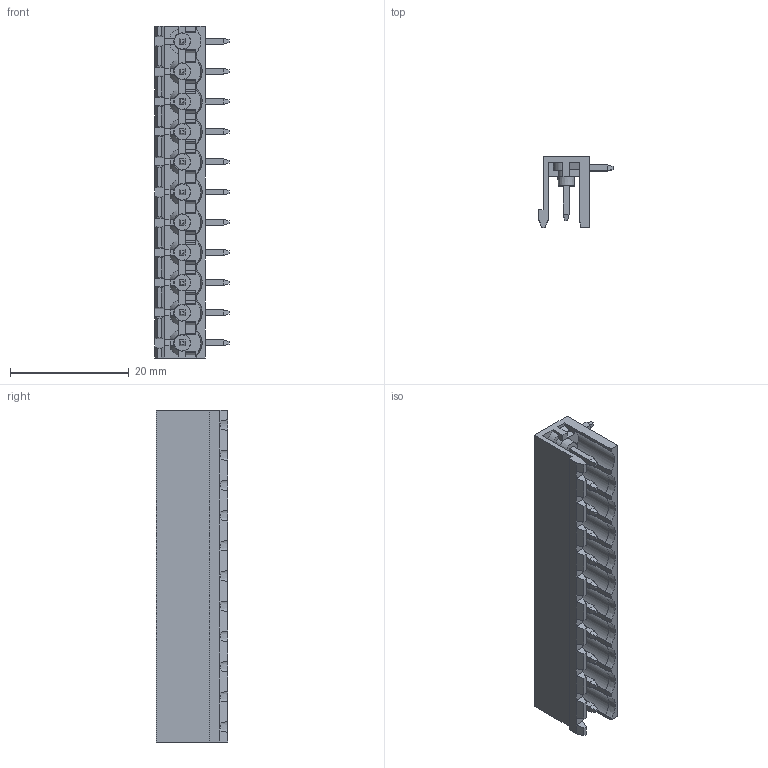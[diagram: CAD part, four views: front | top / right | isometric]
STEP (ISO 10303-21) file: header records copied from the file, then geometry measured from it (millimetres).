
FILE_DESCRIPTION (( 'STEP AP203' ), '1' );
FILE_NAME ('BR8MN1-11.STEP', '2020-03-18T03:19:10', ( '' ), ( '' ), 'SwSTEP 2.0', 'SolidWorks 2019', '' );
FILE_SCHEMA (( 'CONFIG_CONTROL_DESIGN' ));
Length unit declared in the file: millimetre
Products named in the file (1): BR8MN1-11
Bounding box: 12.5 x 12 x 55.88 mm (x, y, z)
Volume: 2134.8 mm3; surface area: 4783.4 mm2
Topology: 1 solids, 1 shells, 932 faces, 2430 edges, 1500 vertices
Faces by surface type: plane 802, cylinder 56, cone 52, sphere 22
Entity records: 27728 total; most frequent: CARTESIAN_POINT 5279, ORIENTED_EDGE 4772, DIRECTION 4369, EDGE_CURVE 2386, LINE 2041, VECTOR 2041, VERTEX_POINT 1478, AXIS2_PLACEMENT_3D 1164
